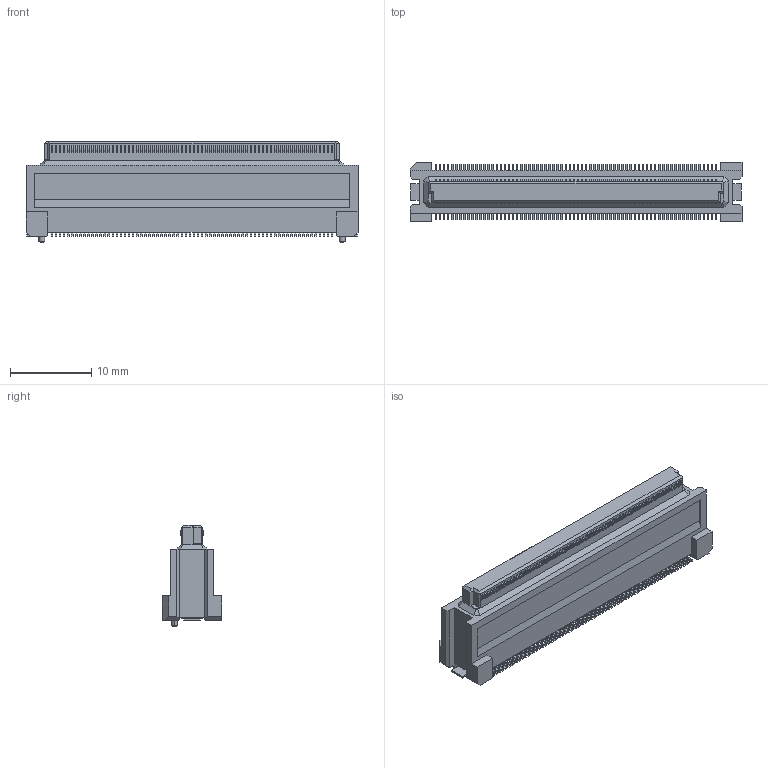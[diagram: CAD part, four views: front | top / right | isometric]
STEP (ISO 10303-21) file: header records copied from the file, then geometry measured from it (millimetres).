
FILE_DESCRIPTION(('CoCreate Modeling STEP Export'),'2;1');
FILE_NAME('DY11-140FS-3.stp','2017-08-10T10:03:36',(''),(''),'CoCreate Modeling STEP processor for AP214 (Solid Model)','CoCreate Modeling 17.0B 09-Oct-2010 (C) Parametric Technology GmbH','');
FILE_SCHEMA(('AUTOMOTIVE_DESIGN { 1 0 10303 214 1 1 1 1 }'));
Products named in the file (2): DY11-140FS-3
Assembly tree (1 placements, depth 2):
  DY11-140FS-3
    DY11-140FS-3
Bounding box: 40.9 x 7.3 x 12.5 mm (x, y, z)
Volume: 1895.9 mm3; surface area: 1753.8 mm2
Topology: 1 solids, 1 shells, 1980 faces, 5453 edges, 3622 vertices
Faces by surface type: plane 1398, cylinder 570, bspline 8, cone 4
Entity records: 62578 total; most frequent: CARTESIAN_POINT 12083, ORIENTED_EDGE 10906, DIRECTION 9957, EDGE_CURVE 5453, VECTOR 4285, LINE 4285, VERTEX_POINT 3622, AXIS2_PLACEMENT_3D 2836
